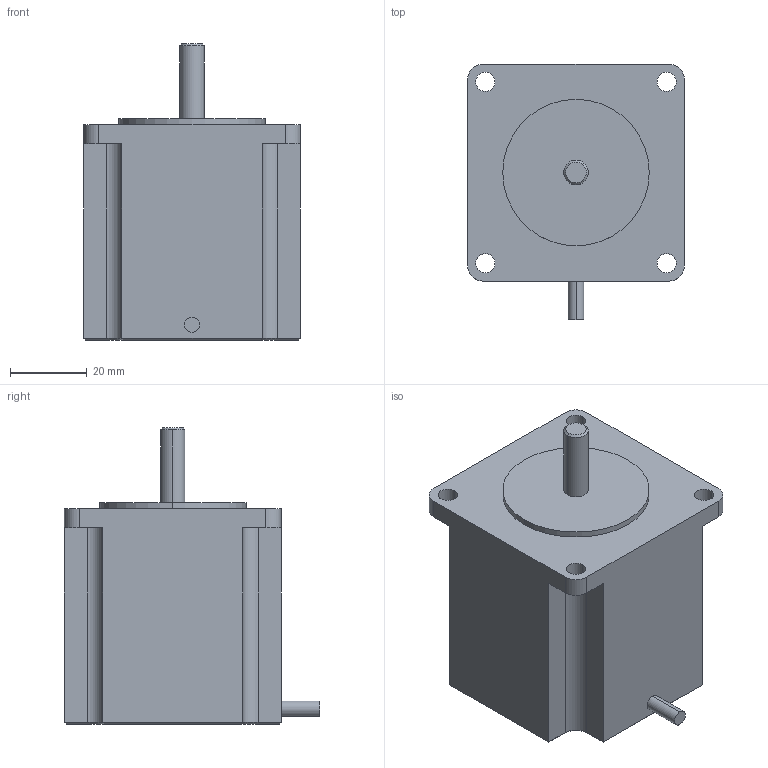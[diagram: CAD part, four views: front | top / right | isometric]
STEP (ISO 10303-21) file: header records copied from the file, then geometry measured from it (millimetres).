
FILE_DESCRIPTION (( 'STEP AP214' ), '1' );
FILE_NAME ('3S57Q-04056.STEP', '2021-03-23T07:48:56', ( '' ), ( '' ), 'SwSTEP 2.0', 'SolidWorks 2020', '' );
FILE_SCHEMA (( 'AUTOMOTIVE_DESIGN' ));
Length unit declared in the file: millimetre
Products named in the file (1): 3S57Q-04056
Bounding box: 56.4 x 66.4 x 77 mm (x, y, z)
Volume: 160507.5 mm3; surface area: 19374 mm2
Topology: 1 solids, 1 shells, 61 faces, 150 edges, 94 vertices
Faces by surface type: plane 33, cylinder 22, cone 6
Entity records: 1840 total; most frequent: DIRECTION 324, CARTESIAN_POINT 306, ORIENTED_EDGE 300, EDGE_CURVE 150, AXIS2_PLACEMENT_3D 112, VECTOR 100, LINE 100, VERTEX_POINT 94
